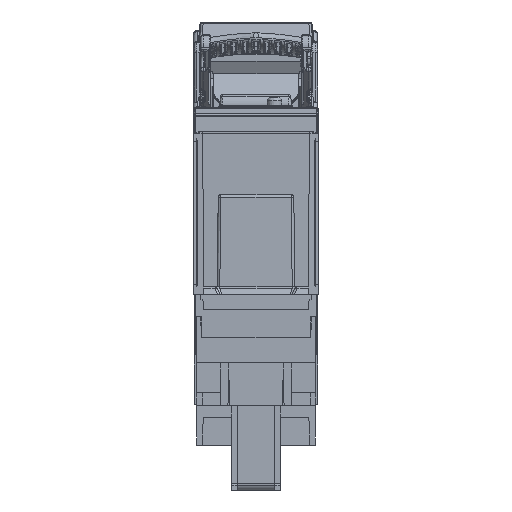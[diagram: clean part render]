
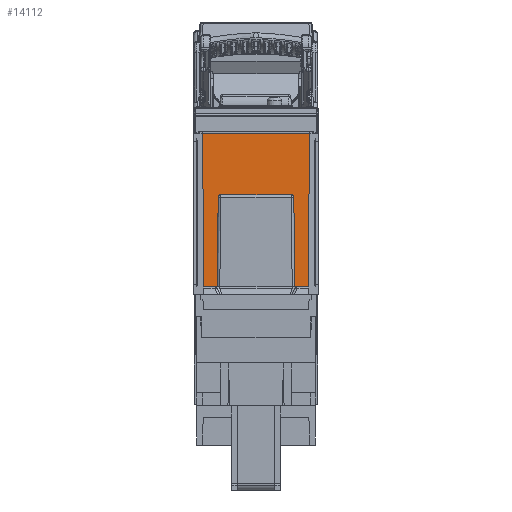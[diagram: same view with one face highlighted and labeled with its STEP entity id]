
A CAD part, left-side view. The second image highlights one B-rep face of the part: STEP entity #14112.
In plain terms, the highlighted planar face has unit normal (-1, 0, 0).
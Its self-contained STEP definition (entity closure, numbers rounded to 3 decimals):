
#4526=CIRCLE('',#119532,1.);
#4527=CIRCLE('',#119533,1.);
#14112=ADVANCED_FACE('',(#23614),#20904,.T.);
#20904=PLANE('',#119534);
#23614=FACE_OUTER_BOUND('',#30380,.T.);
#30380=EDGE_LOOP('',(#38827,#38828,#38829,#38830,#38831,#38832,#38833,#38834,
#38835,#38836));
#38827=ORIENTED_EDGE('',*,*,#84849,.T.);
#38828=ORIENTED_EDGE('',*,*,#84855,.T.);
#38829=ORIENTED_EDGE('',*,*,#84856,.T.);
#38830=ORIENTED_EDGE('',*,*,#84857,.T.);
#38831=ORIENTED_EDGE('',*,*,#84858,.T.);
#38832=ORIENTED_EDGE('',*,*,#84859,.T.);
#38833=ORIENTED_EDGE('',*,*,#84860,.T.);
#38834=ORIENTED_EDGE('',*,*,#84861,.T.);
#38835=ORIENTED_EDGE('',*,*,#84862,.T.);
#38836=ORIENTED_EDGE('',*,*,#84863,.T.);
#73595=VERTEX_POINT('',#160435);
#73596=VERTEX_POINT('',#160437);
#73601=VERTEX_POINT('',#160452);
#73602=VERTEX_POINT('',#160454);
#73603=VERTEX_POINT('',#160456);
#73604=VERTEX_POINT('',#160458);
#73605=VERTEX_POINT('',#160460);
#73606=VERTEX_POINT('',#160462);
#73607=VERTEX_POINT('',#160464);
#73608=VERTEX_POINT('',#160466);
#84849=EDGE_CURVE('',#73596,#73595,#102149,.T.);
#84855=EDGE_CURVE('',#73595,#73601,#102154,.T.);
#84856=EDGE_CURVE('',#73601,#73602,#102155,.T.);
#84857=EDGE_CURVE('',#73602,#73603,#102156,.T.);
#84858=EDGE_CURVE('',#73603,#73604,#102157,.T.);
#84859=EDGE_CURVE('',#73604,#73605,#4526,.T.);
#84860=EDGE_CURVE('',#73605,#73606,#102158,.T.);
#84861=EDGE_CURVE('',#73606,#73607,#4527,.T.);
#84862=EDGE_CURVE('',#73607,#73608,#102159,.T.);
#84863=EDGE_CURVE('',#73608,#73596,#102160,.T.);
#102149=LINE('',#160436,#110915);
#102154=LINE('',#160451,#110920);
#102155=LINE('',#160453,#110921);
#102156=LINE('',#160455,#110922);
#102157=LINE('',#160457,#110923);
#102158=LINE('',#160461,#110924);
#102159=LINE('',#160465,#110925);
#102160=LINE('',#160467,#110926);
#110915=VECTOR('',#130091,1.);
#110920=VECTOR('',#130098,1.);
#110921=VECTOR('',#130099,1.);
#110922=VECTOR('',#130100,1.);
#110923=VECTOR('',#130101,1.);
#110924=VECTOR('',#130104,1.);
#110925=VECTOR('',#130107,1.);
#110926=VECTOR('',#130108,1.);
#119532=AXIS2_PLACEMENT_3D('',#160459,#130102,#130103);
#119533=AXIS2_PLACEMENT_3D('',#160463,#130105,#130106);
#119534=AXIS2_PLACEMENT_3D('',#160468,#130109,#130110);
#130091=DIRECTION('',(0.,-0.009,1.));
#130098=DIRECTION('',(0.,1.,0.));
#130099=DIRECTION('',(0.,-0.009,-1.));
#130100=DIRECTION('',(0.,-1.,0.));
#130101=DIRECTION('',(0.,-0.009,1.));
#130102=DIRECTION('',(1.,0.,0.));
#130103=DIRECTION('',(0.,0.,-1.));
#130104=DIRECTION('',(0.,-1.,0.));
#130105=DIRECTION('',(1.,0.,0.));
#130106=DIRECTION('',(0.,0.,1.));
#130107=DIRECTION('',(0.,-0.009,-1.));
#130108=DIRECTION('',(0.,-1.,0.));
#130109=DIRECTION('',(-1.,0.,0.));
#130110=DIRECTION('',(0.,0.,1.));
#160435=CARTESIAN_POINT('',(-246.381,-21.487,106.));
#160436=CARTESIAN_POINT('',(-246.381,-20.687,14.319));
#160437=CARTESIAN_POINT('',(-246.381,-20.95,44.5));
#160451=CARTESIAN_POINT('',(-246.381,24.058,106.));
#160452=CARTESIAN_POINT('',(-246.381,21.469,106.));
#160453=CARTESIAN_POINT('',(-246.381,21.474,106.5));
#160454=CARTESIAN_POINT('',(-246.381,20.933,44.5));
#160455=CARTESIAN_POINT('',(-246.381,24.058,44.5));
#160456=CARTESIAN_POINT('',(-246.381,15.513,44.5));
#160457=CARTESIAN_POINT('',(-246.381,15.513,44.5));
#160458=CARTESIAN_POINT('',(-246.381,15.199,80.509));
#160459=CARTESIAN_POINT('',(-246.381,14.199,80.5));
#160460=CARTESIAN_POINT('',(-246.381,14.199,81.5));
#160461=CARTESIAN_POINT('',(-246.381,24.058,81.5));
#160462=CARTESIAN_POINT('',(-246.381,-14.199,81.5));
#160463=CARTESIAN_POINT('',(-246.381,-14.199,80.5));
#160464=CARTESIAN_POINT('',(-246.381,-15.199,80.509));
#160465=CARTESIAN_POINT('',(-246.381,-15.199,80.509));
#160466=CARTESIAN_POINT('',(-246.381,-15.513,44.5));
#160467=CARTESIAN_POINT('',(-246.381,24.058,44.5));
#160468=CARTESIAN_POINT('',(-246.381,24.058,14.));
